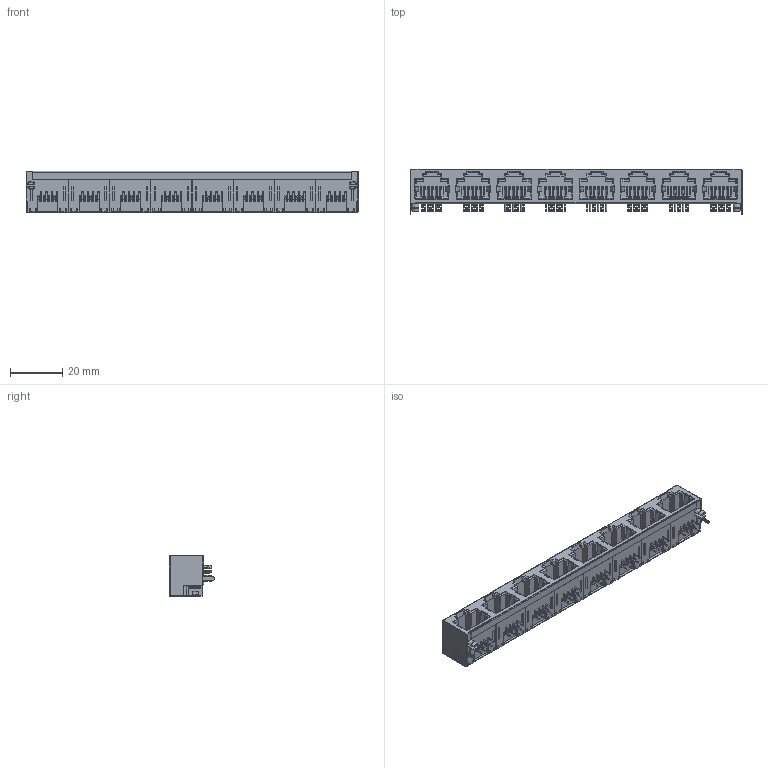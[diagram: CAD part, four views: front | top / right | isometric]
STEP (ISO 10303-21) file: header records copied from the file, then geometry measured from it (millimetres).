
FILE_DESCRIPTION((''),'2;1');
FILE_NAME('DGKYD561888DB1A1D9Y1030_ASM','2024-08-22T15:40:35',('DGKYD'),(''),'CREO PARAMETRIC BY PTC INC, 2019010','CREO PARAMETRIC BY PTC INC, 2019010','');
FILE_SCHEMA(('CONFIG_CONTROL_DESIGN'));
Products named in the file (4): 56-18-030SU_1; 56-18-030T_1; 56-18-030_ASM_1_ASM; DGKYD561888DB1A1D9Y1030_ASM
Assembly tree (3 placements, depth 3):
  DGKYD561888DB1A1D9Y1030_ASM
    56-18-030_ASM_1_ASM
      56-18-030SU_1
      56-18-030T_1
Bounding box: 127 x 17.33 x 15.9 mm (x, y, z)
Volume: 14880.1 mm3; surface area: 27251.1 mm2
Topology: 2 solids, 2 shells, 2810 faces, 7847 edges, 5036 vertices
Faces by surface type: plane 1880, cylinder 552, torus 324, bspline 50, cone 4
Entity records: 94868 total; most frequent: CARTESIAN_POINT 22999, ORIENTED_EDGE 15688, DIRECTION 14022, EDGE_CURVE 7844, VECTOR 5532, LINE 5532, VERTEX_POINT 5036, AXIS2_PLACEMENT_3D 4245
